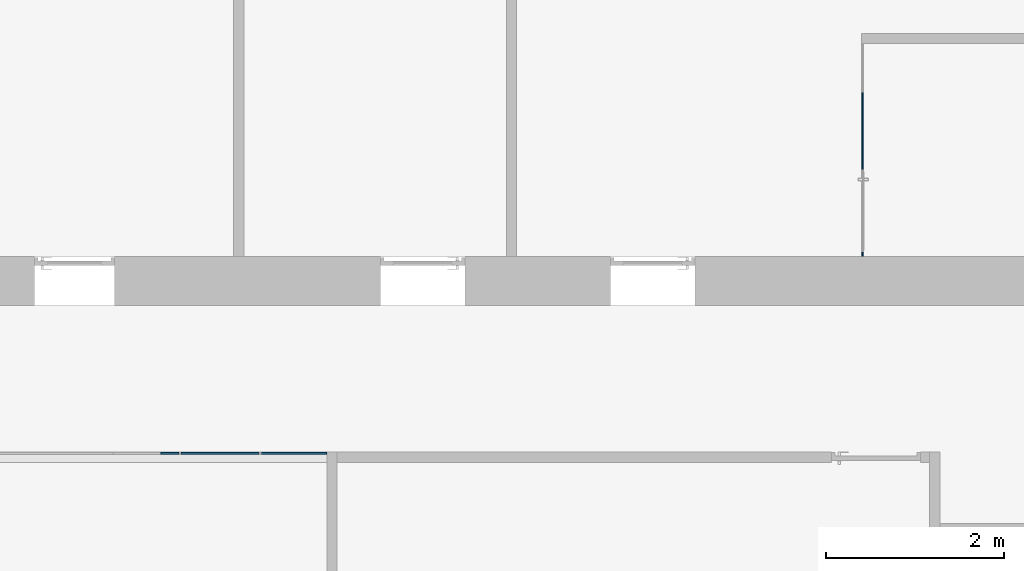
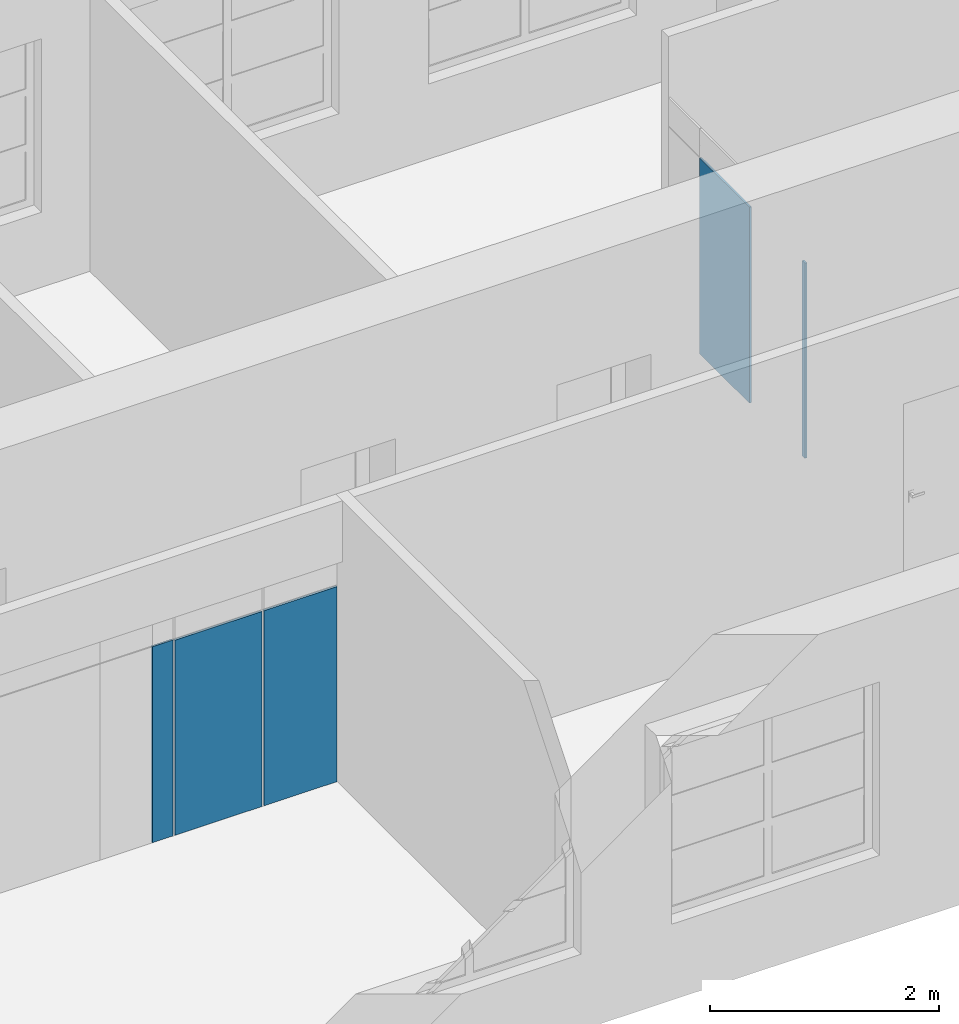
# One storey, part 21 of 66: 5 plates, 2 elements without a shape of their own.
"""IFC2X3 building model written with IfcOpenShell, lengths in millimetres."""

from ifc_helpers import new_model, entity, si_unit, converted_unit, derived_unit, direction, frame, origin, origin_2d_with_axis, place, context, subcontext, project, spatial, rectangle, extrude, source, transform, mapped, material, layer, layer_set, layer_usage, type_object, type_shapes, element, aggregate, save


model = new_model("IFC2X3")

# Units and contexts
model_context = context("Model", 3, precision=0.01, world=origin(), true_north=direction((6.12303176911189e-17, 1.0)))
body_context = subcontext(model_context, "Body", "Model", "MODEL_VIEW")
ifc_project = project(units=[si_unit("LENGTHUNIT", "METRE", prefix="MILLI"), si_unit("AREAUNIT", "SQUARE_METRE"), si_unit("VOLUMEUNIT", "CUBIC_METRE"), converted_unit("PLANEANGLEUNIT", "DEGREE", entity("IfcRatioMeasure", 0.0174532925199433), si_unit("PLANEANGLEUNIT", "RADIAN"), dimensions=[0, 0, 0, 0, 0, 0, 0]), si_unit("MASSUNIT", "GRAM", prefix="KILO"), derived_unit("MASSDENSITYUNIT", [(si_unit("MASSUNIT", "GRAM", prefix="KILO"), 1), (si_unit("LENGTHUNIT", "METRE"), -3)]), si_unit("TIMEUNIT", "SECOND"), si_unit("FREQUENCYUNIT", "HERTZ"), si_unit("THERMODYNAMICTEMPERATUREUNIT", "DEGREE_CELSIUS"), derived_unit("THERMALTRANSMITTANCEUNIT", [(si_unit("MASSUNIT", "GRAM", prefix="KILO"), 1), (si_unit("THERMODYNAMICTEMPERATUREUNIT", "KELVIN"), -1), (si_unit("TIMEUNIT", "SECOND"), -3)]), derived_unit("VOLUMETRICFLOWRATEUNIT", [(si_unit("LENGTHUNIT", "METRE"), 3), (si_unit("TIMEUNIT", "SECOND"), -1)]), si_unit("ELECTRICCURRENTUNIT", "AMPERE"), si_unit("ELECTRICVOLTAGEUNIT", "VOLT"), si_unit("POWERUNIT", "WATT"), si_unit("FORCEUNIT", "NEWTON", prefix="KILO"), si_unit("ILLUMINANCEUNIT", "LUX"), si_unit("LUMINOUSFLUXUNIT", "LUMEN"), si_unit("LUMINOUSINTENSITYUNIT", "CANDELA"), derived_unit("USERDEFINED", [(si_unit("MASSUNIT", "GRAM", prefix="KILO"), -1), (si_unit("LENGTHUNIT", "METRE"), -2), (si_unit("TIMEUNIT", "SECOND"), 3), (si_unit("LUMINOUSFLUXUNIT", "LUMEN"), 1)]), derived_unit("LINEARVELOCITYUNIT", [(si_unit("LENGTHUNIT", "METRE"), 1), (si_unit("TIMEUNIT", "SECOND"), -1)]), si_unit("PRESSUREUNIT", "PASCAL"), derived_unit("USERDEFINED", [(si_unit("LENGTHUNIT", "METRE"), -2), (si_unit("MASSUNIT", "GRAM", prefix="KILO"), 1), (si_unit("TIMEUNIT", "SECOND"), -2)])], contexts=[model_context])

# Site, building, storey
site_placement = place(None, frame((-151.875543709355, 2715.0, 0.0)))
site = spatial("IfcSite", under=ifc_project, at=site_placement, Name="Surface", CompositionType="ELEMENT")
building_placement = place(site_placement, origin())
building = spatial("IfcBuilding", under=site, at=building_placement, CompositionType="ELEMENT")
storey_placement = place(building_placement, frame((0.0, 0.0, 3350.0)))
storey = spatial("IfcBuildingStorey", under=building, at=storey_placement, Name="2 korrus", CompositionType="ELEMENT", Elevation=3350.00000000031)

# Curtain wall, plates
curtain_wall_type_1 = type_object("IfcCurtainWallType", Name="Curtain Wall:Klaassein KLS-09", PredefinedType="NOTDEFINED")
curtain_wall_1_placement = place(storey_placement, frame((0.0, 0.0, -3350.0)))
curtain_wall_1 = element("IfcCurtainWall", 1, at=curtain_wall_1_placement, inside=storey, type_object=curtain_wall_type_1, Name="Curtain Wall:Klaassein KLS-09", ObjectType="Curtain Wall:Klaassein KLS-09")
ifc_material = material(Name="<Unnamed>")
ifc_layer = layer(ifc_material, 20.0)
ifc_layer_set = layer_set([ifc_layer], Name="Curtain Wall:Klaassein KLS-01")
ifc_layer_usage_1 = layer_usage(ifc_layer_set, "AXIS3", "POSITIVE", 0.0)
plate_type_1 = type_object("IfcPlateType", Name="Glazed", PredefinedType="CURTAIN_PANEL", material=ifc_layer_set)
shared_shape_1 = source(origin(), body_context, "Body", "SweptSolid", [
    extrude(rectangle(XDim=20.0, YDim=207.585771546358, at=origin_2d_with_axis()), frame((0.0, 0.0, 0.0), z_axis=(0.0, 0.0, 1.0), x_axis=(0.0, 1.0, 0.0)), (0.0, 0.0, 1.0), 2090.0),
])
type_shapes(plate_type_1, [shared_shape_1])
plate_1_placement = place(curtain_wall_1_placement, frame((16306.2774936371, 4352.04493399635, 3350.0)))
plate_1 = element("IfcPlate", 2, at=plate_1_placement, type_object=plate_type_1, material=ifc_layer_usage_1, Name="System Panel:Glazed", ObjectType="Glazed", context=body_context, shape_type="MappedRepresentation", body=[
    mapped(shared_shape_1, transform((0.0, 0.0, 0.0), scale=1.0)),
])
ifc_layer_usage_2 = layer_usage(ifc_layer_set, "AXIS3", "POSITIVE", 0.0)
plate_type_2 = type_object("IfcPlateType", Name="Glazed", PredefinedType="CURTAIN_PANEL", material=ifc_layer_set)
shared_shape_2 = source(origin(), body_context, "Body", "SweptSolid", [
    extrude(rectangle(XDim=20.0, YDim=880.0000003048, at=origin_2d_with_axis()), frame((0.0, 0.0, 0.0), z_axis=(0.0, 0.0, 1.0), x_axis=(0.0, 1.0, 0.0)), (0.0, 0.0, 1.0), 2080.0),
])
type_shapes(plate_type_2, [shared_shape_2])
plate_2_placement = place(curtain_wall_1_placement, frame((16870.0703794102, 4352.04493399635, 3350.0)))
plate_2 = element("IfcPlate", 3, at=plate_2_placement, type_object=plate_type_2, material=ifc_layer_usage_2, Name="System Panel:Glazed", ObjectType="Glazed", context=body_context, shape_type="MappedRepresentation", body=[
    mapped(shared_shape_2, transform((0.0, 0.0, 0.0), scale=1.0)),
])
ifc_layer_usage_3 = layer_usage(ifc_layer_set, "AXIS3", "POSITIVE", 0.0)
plate_type_3 = type_object("IfcPlateType", Name="Glazed", PredefinedType="CURTAIN_PANEL", material=ifc_layer_set)
shared_shape_3 = source(origin(), body_context, "Body", "SweptSolid", [
    extrude(rectangle(XDim=20.0, YDim=736.494346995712, at=origin_2d_with_axis()), frame((0.0, 0.0, 0.0), z_axis=(0.0, 0.0, 1.0), x_axis=(0.0, 1.0, 0.0)), (0.0, 0.0, 1.0), 2080.0),
])
type_shapes(plate_type_3, [shared_shape_3])
plate_3_placement = place(curtain_wall_1_placement, frame((17698.3175529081, 4352.04493399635, 3350.0)))
plate_3 = element("IfcPlate", 4, at=plate_3_placement, type_object=plate_type_3, material=ifc_layer_usage_3, Name="System Panel:Glazed", ObjectType="Glazed", context=body_context, shape_type="MappedRepresentation", body=[
    mapped(shared_shape_3, transform((0.0, 0.0, 0.0), scale=1.0)),
])
aggregate(curtain_wall_1, [plate_1, plate_2, plate_3])

curtain_wall_type_2 = type_object("IfcCurtainWallType", Name="Curtain Wall:Klaassein KLS-05", PredefinedType="NOTDEFINED")
curtain_wall_2_placement = place(storey_placement, frame((0.0, 0.0, -3350.0)))
curtain_wall_2 = element("IfcCurtainWall", 5, at=curtain_wall_2_placement, inside=storey, type_object=curtain_wall_type_2, Name="Curtain Wall:Klaassein KLS-05", ObjectType="Curtain Wall:Klaassein KLS-05")
ifc_layer_usage_4 = layer_usage(ifc_layer_set, "AXIS3", "POSITIVE", 0.0)
plate_type_4 = type_object("IfcPlateType", Name="Glazed", PredefinedType="CURTAIN_PANEL", material=ifc_layer_set)
shared_shape_4 = source(origin(), body_context, "Body", "SweptSolid", [
    extrude(rectangle(XDim=20.0, YDim=869.080118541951, at=origin_2d_with_axis()), frame((0.0, 0.0, 0.0), z_axis=(0.0, 0.0, 1.0), x_axis=(0.0, 1.0, 0.0)), (0.0, 0.0, 1.0), 2090.0),
])
type_shapes(plate_type_4, [shared_shape_4])
plate_4_placement = place(curtain_wall_2_placement, frame((24073.28599988, 7964.54005927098, 3350.0), z_axis=(0.0, 0.0, 1.0), x_axis=(0.0, -1.0, 0.0)))
plate_4 = element("IfcPlate", 6, at=plate_4_placement, type_object=plate_type_4, material=ifc_layer_usage_4, Name="System Panel:Glazed", ObjectType="Glazed", context=body_context, shape_type="MappedRepresentation", body=[
    mapped(shared_shape_4, transform((0.0, 0.0, 0.0), scale=1.0)),
])
ifc_layer_usage_5 = layer_usage(ifc_layer_set, "AXIS3", "POSITIVE", 0.0)
plate_type_5 = type_object("IfcPlateType", Name="Glazed", PredefinedType="CURTAIN_PANEL", material=ifc_layer_set)
shared_shape_5 = source(origin(), body_context, "Body", "SweptSolid", [
    extrude(rectangle(XDim=20.0, YDim=50.0000000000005, at=origin_2d_with_axis()), frame((0.0, 0.0, 0.0), z_axis=(0.0, 0.0, 1.0), x_axis=(0.0, 1.0, 0.0)), (0.0, 0.0, 1.0), 2080.0),
])
type_shapes(plate_type_5, [shared_shape_5])
plate_5_placement = place(curtain_wall_2_placement, frame((24073.28599988, 6585.0, 3350.0), z_axis=(0.0, 0.0, 1.0), x_axis=(0.0, -1.0, 0.0)))
plate_5 = element("IfcPlate", 7, at=plate_5_placement, type_object=plate_type_5, material=ifc_layer_usage_5, Name="System Panel:Glazed", ObjectType="Glazed", context=body_context, shape_type="MappedRepresentation", body=[
    mapped(shared_shape_5, transform((0.0, 0.0, 0.0), scale=1.0)),
])
aggregate(curtain_wall_2, [plate_4, plate_5])

save(model, "model.ifc")
